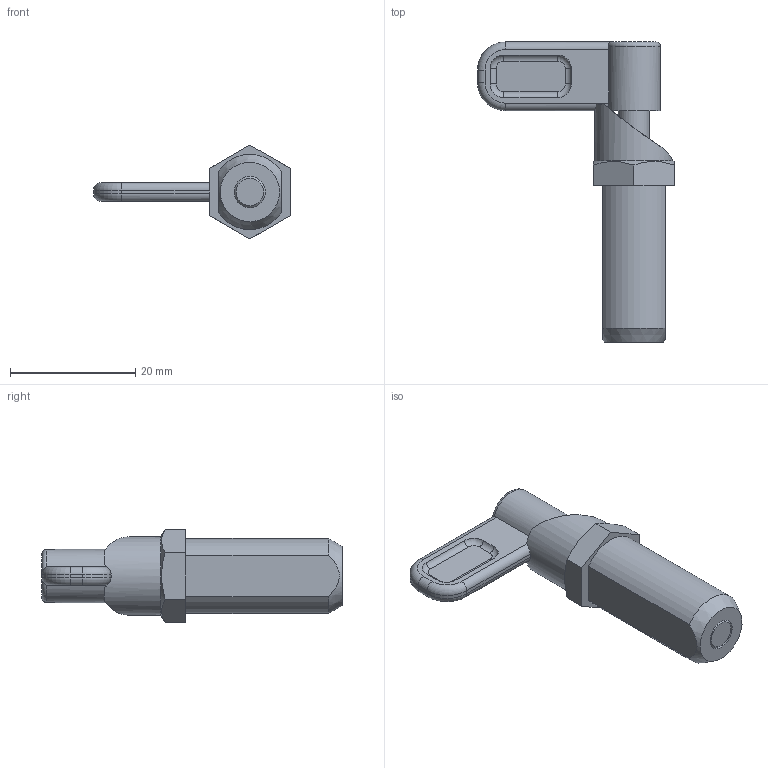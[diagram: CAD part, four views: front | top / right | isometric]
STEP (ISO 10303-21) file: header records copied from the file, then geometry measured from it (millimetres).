
FILE_DESCRIPTION( ( 'STEP AP203' ), '1' );
FILE_NAME( 'C:/Temp/Ganter_Step_05_03_2020/data/3_1/gn_612.8/gn612_8_a/Indexing plunger GN 612.8-5-M12x1,5-A (activated).stp', '2020-03-12T09:12:15', ( 'License CC BY-ND 4.0' ), ( 'CADENAS' ), ' ', 'PARTsolutions', ' ' );
FILE_SCHEMA( ( 'CONFIG_CONTROL_DESIGN' ) );
Length unit declared in the file: millimetre
Products named in the file (3): Indexing plunger GN 612.8-5-M12x1,5-A (activated); _Indexing plunger GN 612.8-5-M12x1,5-A (2)_2; _Rastriegel GN 612.8-5-M12x1,5-A (2)_1
Assembly tree (2 placements, depth 2):
  Indexing plunger GN 612.8-5-M12x1,5-A (activated)
    _Indexing plunger GN 612.8-5-M12x1,5-A (2)_2
    _Rastriegel GN 612.8-5-M12x1,5-A (2)_1
Bounding box: 31.5 x 48 x 15.01 mm (x, y, z)
Volume: 4676.1 mm3; surface area: 3700.6 mm2
Topology: 2 solids, 2 shells, 74 faces, 172 edges, 110 vertices
Faces by surface type: cylinder 33, plane 25, torus 13, cone 3
Full cylindrical faces by diameter (mm): 5 x4, 6 x2, 9 x1, 12.5 x1
Entity records: 2470 total; most frequent: CARTESIAN_POINT 710, DIRECTION 358, ORIENTED_EDGE 322, EDGE_CURVE 161, AXIS2_PLACEMENT_3D 150, VERTEX_POINT 108, EDGE_LOOP 93, FACE_OUTER_BOUND 80
